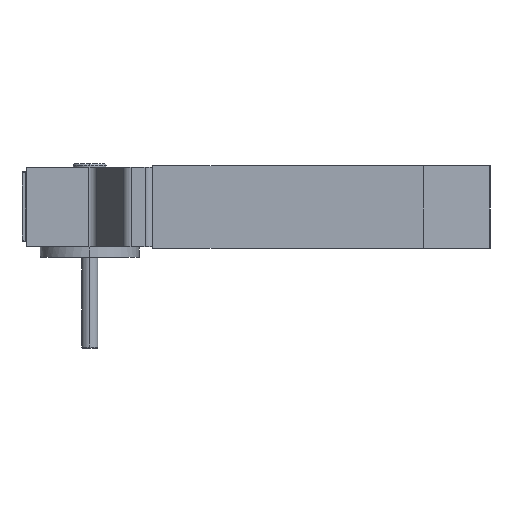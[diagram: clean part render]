
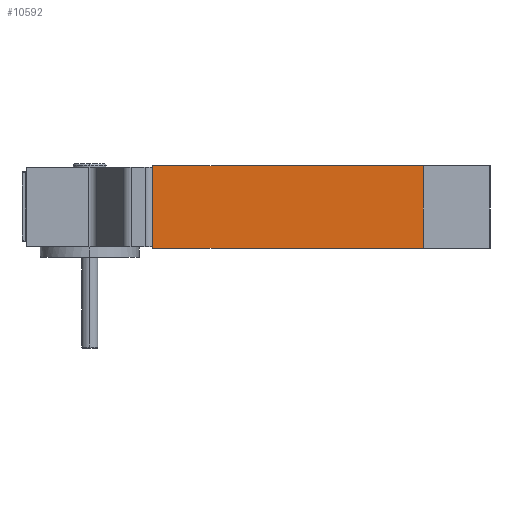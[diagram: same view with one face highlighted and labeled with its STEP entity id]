
A CAD part, left-side view. The second image highlights one B-rep face of the part: STEP entity #10592.
In plain terms, the highlighted planar face has unit normal (-1, 0, 0).
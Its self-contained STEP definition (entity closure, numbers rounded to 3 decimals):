
#69 = CARTESIAN_POINT ( 'NONE',  ( -51.83, -404.775, 1.5 ) ) ;
#693 = VERTEX_POINT ( 'NONE', #69 ) ;
#1325 = EDGE_CURVE ( 'NONE', #9685, #7324, #12833, .T. ) ;
#1461 = AXIS2_PLACEMENT_3D ( 'NONE', #14940, #10568, #9480 ) ;
#1632 = DIRECTION ( 'NONE',  ( 0., 0., 1. ) ) ;
#2772 = VERTEX_POINT ( 'NONE', #10048 ) ;
#3962 = VECTOR ( 'NONE', #5637, 1000. ) ;
#4215 = VECTOR ( 'NONE', #8948, 1000. ) ;
#4831 = CARTESIAN_POINT ( 'NONE',  ( -51.83, -76.75, -98.5 ) ) ;
#5333 = EDGE_LOOP ( 'NONE', ( #10438, #5651, #13172, #10520 ) ) ;
#5637 = DIRECTION ( 'NONE',  ( 0., -1., 0. ) ) ;
#5651 = ORIENTED_EDGE ( 'NONE', *, *, #1325, .F. ) ;
#6966 = PLANE ( 'NONE',  #1461 ) ;
#7198 = EDGE_CURVE ( 'NONE', #7324, #693, #10578, .T. ) ;
#7324 = VERTEX_POINT ( 'NONE', #12779 ) ;
#7721 = LINE ( 'NONE', #8811, #9014 ) ;
#7748 = CARTESIAN_POINT ( 'NONE',  ( -51.83, 0., 1.5 ) ) ;
#7914 = LINE ( 'NONE', #12749, #3962 ) ;
#8446 = EDGE_CURVE ( 'NONE', #9685, #2772, #7914, .T. ) ;
#8677 = CARTESIAN_POINT ( 'NONE',  ( -51.83, -76.75, -98.5 ) ) ;
#8742 = EDGE_CURVE ( 'NONE', #2772, #693, #7721, .T. ) ;
#8811 = CARTESIAN_POINT ( 'NONE',  ( -51.83, -404.775, -98.5 ) ) ;
#8927 = VECTOR ( 'NONE', #12505, 1000. ) ;
#8948 = DIRECTION ( 'NONE',  ( 0., -1., 0. ) ) ;
#9014 = VECTOR ( 'NONE', #1632, 1000. ) ;
#9480 = DIRECTION ( 'NONE',  ( 0., -1., 0. ) ) ;
#9685 = VERTEX_POINT ( 'NONE', #4831 ) ;
#10048 = CARTESIAN_POINT ( 'NONE',  ( -51.83, -404.775, -98.5 ) ) ;
#10438 = ORIENTED_EDGE ( 'NONE', *, *, #7198, .F. ) ;
#10520 = ORIENTED_EDGE ( 'NONE', *, *, #8742, .T. ) ;
#10568 = DIRECTION ( 'NONE',  ( -1., 0., 0. ) ) ;
#10578 = LINE ( 'NONE', #7748, #4215 ) ;
#10592 = ADVANCED_FACE ( 'NONE', ( #13042 ), #6966, .T. ) ;
#12505 = DIRECTION ( 'NONE',  ( 0., 0., 1. ) ) ;
#12749 = CARTESIAN_POINT ( 'NONE',  ( -51.83, 0., -98.5 ) ) ;
#12779 = CARTESIAN_POINT ( 'NONE',  ( -51.83, -76.75, 1.5 ) ) ;
#12833 = LINE ( 'NONE', #8677, #8927 ) ;
#13042 = FACE_OUTER_BOUND ( 'NONE', #5333, .T. ) ;
#13172 = ORIENTED_EDGE ( 'NONE', *, *, #8446, .T. ) ;
#14940 = CARTESIAN_POINT ( 'NONE',  ( -51.83, 0., -98.5 ) ) ;
